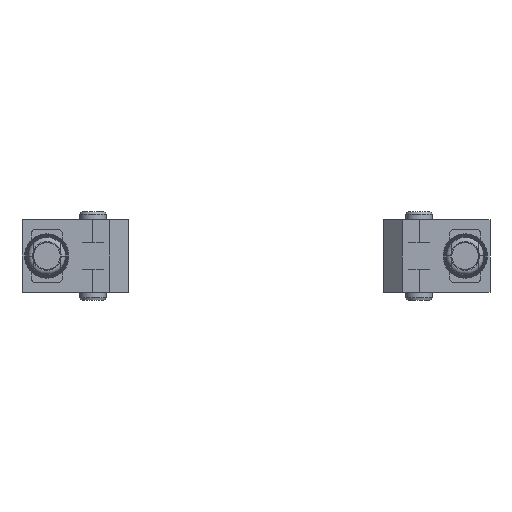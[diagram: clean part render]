
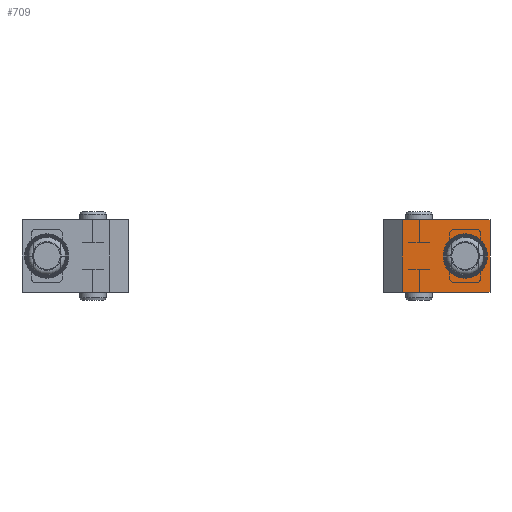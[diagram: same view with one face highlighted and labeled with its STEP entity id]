
A CAD part, front view. The second image highlights one B-rep face of the part: STEP entity #709.
In plain terms, the highlighted planar face has unit normal (0, -1, 0).
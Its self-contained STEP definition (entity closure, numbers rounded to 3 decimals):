
#337=FACE_BOUND('',#1852,.T.);
#449=CIRCLE('',#8066,2.);
#709=ADVANCED_FACE('',(#1443,#337),#1135,.T.);
#1135=PLANE('',#8067);
#1443=FACE_OUTER_BOUND('',#1851,.T.);
#1851=EDGE_LOOP('',(#2391,#2392,#2393,#2394));
#1852=EDGE_LOOP('',(#2395));
#2391=ORIENTED_EDGE('',*,*,#5400,.T.);
#2392=ORIENTED_EDGE('',*,*,#5401,.T.);
#2393=ORIENTED_EDGE('',*,*,#5402,.F.);
#2394=ORIENTED_EDGE('',*,*,#5403,.T.);
#2395=ORIENTED_EDGE('',*,*,#5404,.F.);
#4637=VERTEX_POINT('',#10931);
#4638=VERTEX_POINT('',#10932);
#4639=VERTEX_POINT('',#10934);
#4640=VERTEX_POINT('',#10936);
#4641=VERTEX_POINT('',#10939);
#5400=EDGE_CURVE('',#4637,#4638,#6526,.T.);
#5401=EDGE_CURVE('',#4638,#4639,#6527,.T.);
#5402=EDGE_CURVE('',#4640,#4639,#6528,.T.);
#5403=EDGE_CURVE('',#4640,#4637,#6529,.T.);
#5404=EDGE_CURVE('',#4641,#4641,#449,.T.);
#6526=LINE('',#10930,#7302);
#6527=LINE('',#10933,#7303);
#6528=LINE('',#10935,#7304);
#6529=LINE('',#10937,#7305);
#7302=VECTOR('',#8779,1.);
#7303=VECTOR('',#8780,1.);
#7304=VECTOR('',#8781,1.);
#7305=VECTOR('',#8782,1.);
#8066=AXIS2_PLACEMENT_3D('',#10938,#8783,#8784);
#8067=AXIS2_PLACEMENT_3D('',#10940,#8785,#8786);
#8779=DIRECTION('',(1.,0.,0.));
#8780=DIRECTION('',(0.,0.,1.));
#8781=DIRECTION('',(1.,0.,0.));
#8782=DIRECTION('',(0.,0.,-1.));
#8783=DIRECTION('',(0.,-1.,0.));
#8784=DIRECTION('',(0.,0.,-1.));
#8785=DIRECTION('',(0.,-1.,0.));
#8786=DIRECTION('',(0.,0.,1.));
#10930=CARTESIAN_POINT('',(-3.5,-11.1,-4.1));
#10931=CARTESIAN_POINT('',(-3.5,-11.1,-4.1));
#10932=CARTESIAN_POINT('',(6.4,-11.1,-4.1));
#10933=CARTESIAN_POINT('',(6.4,-11.1,-4.1));
#10934=CARTESIAN_POINT('',(6.4,-11.1,4.1));
#10935=CARTESIAN_POINT('',(-3.5,-11.1,4.1));
#10936=CARTESIAN_POINT('',(-3.5,-11.1,4.1));
#10937=CARTESIAN_POINT('',(-3.5,-11.1,4.1));
#10938=CARTESIAN_POINT('',(3.6,-11.1,0.));
#10939=CARTESIAN_POINT('',(3.6,-11.1,-2.));
#10940=CARTESIAN_POINT('',(-5.6,-11.1,-4.15));
